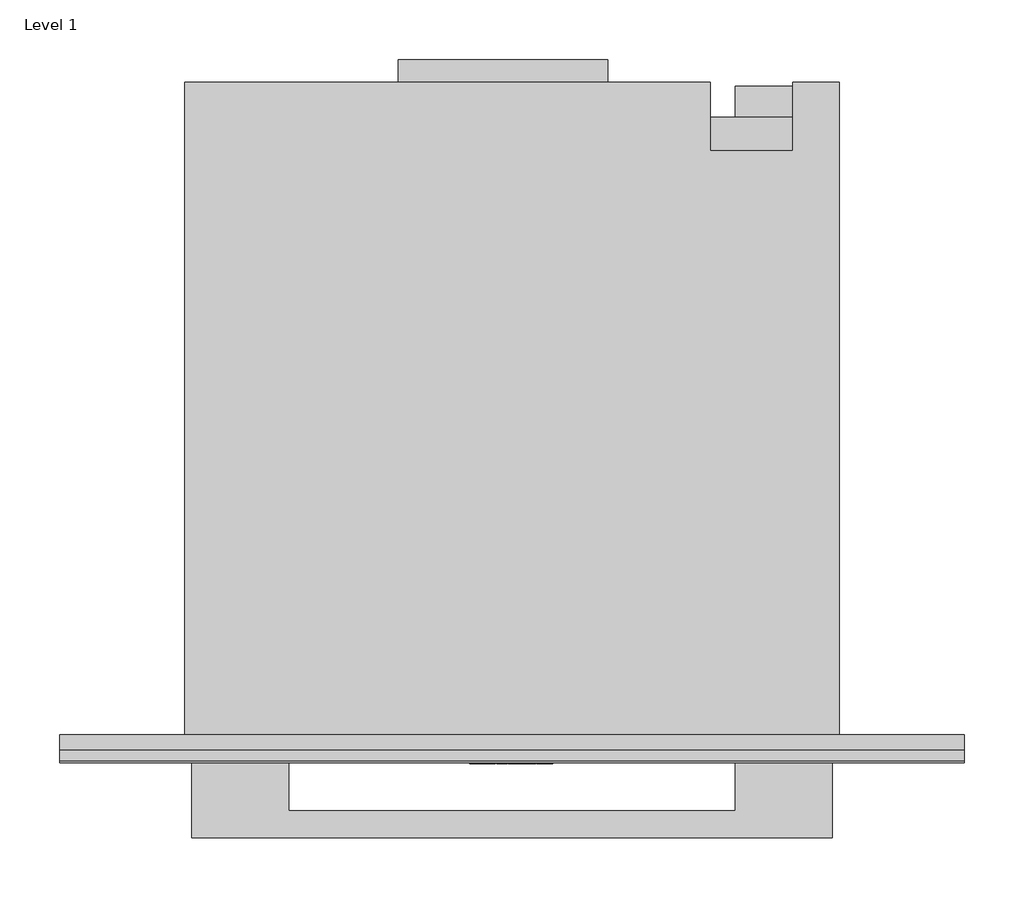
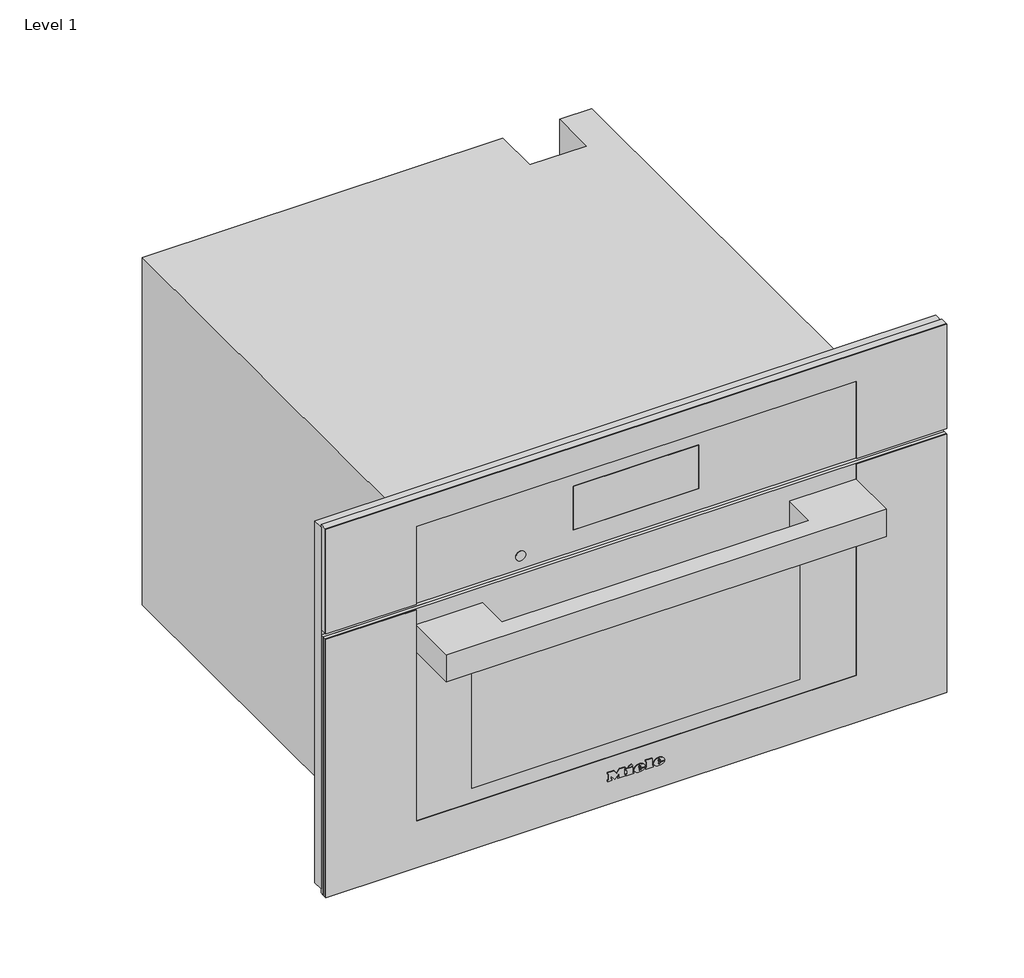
# One storey: 1 proxy.
"""IFC4 building model written with IfcOpenShell, lengths in millimetres."""

import ifcopenshell
import ifcopenshell.guid

model = None  # the IFC model being written
_history = None  # IfcOwnerHistory: only IFC2X3 demands one
_inside = {}  # id of a spatial element -> (the spatial element, [elements in it])
_under = {}  # id of a project, library or spatial element -> (it, [spatial elements below it])
_declared = {}  # id of a project -> (the project, [libraries it declares])
_typed = {}  # id of a type object -> (the type object, [elements of that type])
_made_of = {}  # id of a material, layer set ... -> (it, [elements and type objects made of it])


def new_model(schema):
    """Start an empty IFC model of exactly this schema.

    Asked for "IFC4X3", IfcOpenShell would pick the latest addendum, in which some entities
    have other attributes; the version numbers below select the first issue.
    IFC2X3 requires an IfcOwnerHistory on every rooted entity: one is made here for all.
    """
    global model, _history
    if schema == "IFC4X3":
        model = ifcopenshell.file(schema_version=(4, 3, 0, 0))
    else:
        model = ifcopenshell.file(schema=schema)
    _inside.clear()
    _under.clear()
    _declared.clear()
    _typed.clear()
    _made_of.clear()
    _history = None
    if model.schema == "IFC2X3":
        org = make("IfcOrganization", Name="unknown")
        user = make(
            "IfcPersonAndOrganization",
            ThePerson=make("IfcPerson", FamilyName="unknown"),
            TheOrganization=org,
        )
        app = make(
            "IfcApplication",
            ApplicationDeveloper=org,
            Version="unknown",
            ApplicationFullName="unknown",
            ApplicationIdentifier="unknown",
        )
        _history = make(
            "IfcOwnerHistory",
            OwningUser=user,
            OwningApplication=app,
            ChangeAction="ADDED",
            CreationDate=0,
        )
    return model


def make(cls, **values):
    """One entity of the class cls with the attributes given. An attribute that is None is left unset."""
    return model.create_entity(
        cls, **{name: value for name, value in values.items() if value is not None}
    )


def rooted(cls, **values):
    """An entity with a GlobalId (a new one), such as an element, a storey or a relation."""
    return make(cls, GlobalId=ifcopenshell.guid.new(), OwnerHistory=_history, **values)


def si_unit(unit_type, name, prefix=None):
    """IfcSIUnit, for example si_unit("LENGTHUNIT", "METRE", prefix="MILLI")."""
    return make("IfcSIUnit", UnitType=unit_type, Prefix=prefix, Name=name)


def assignment(units):
    """IfcUnitAssignment: the units of a project."""
    return None if units is None else make("IfcUnitAssignment", Units=units)


def point(xyz):
    """IfcCartesianPoint."""
    return None if xyz is None else make("IfcCartesianPoint", Coordinates=xyz)


def direction(xyz):
    """IfcDirection."""
    return None if xyz is None else make("IfcDirection", DirectionRatios=xyz)


def frame(location, z_axis=None, x_axis=None):
    """IfcAxis2Placement3D, a coordinate frame: its origin and axes. An axis left out is left unset."""
    return make(
        "IfcAxis2Placement3D",
        Location=point(location),
        Axis=direction(z_axis),
        RefDirection=direction(x_axis),
    )


def frame_2d(location, x_axis=None):
    """IfcAxis2Placement2D, a coordinate frame in the plane: its origin and x axis."""
    return make(
        "IfcAxis2Placement2D", Location=point(location), RefDirection=direction(x_axis)
    )


def origin():
    """The frame at (0, 0, 0) with its axes left unset."""
    return frame((0.0, 0.0, 0.0))


def place(relative_to, where):
    """IfcLocalPlacement: puts the frame where relative to a parent placement (None: the world)."""
    return make(
        "IfcLocalPlacement", PlacementRelTo=relative_to, RelativePlacement=where
    )


def context(
    kind, dimensions, precision=None, world=None, true_north=None, identifier=None
):
    """IfcGeometricRepresentationContext, for example the 3D "Model" context."""
    return make(
        "IfcGeometricRepresentationContext",
        ContextIdentifier=identifier,
        ContextType=kind,
        CoordinateSpaceDimension=dimensions,
        Precision=precision,
        WorldCoordinateSystem=world,
        TrueNorth=true_north,
    )


def project(units=None, contexts=None):
    """IfcProject with its units and contexts."""
    return rooted(
        "IfcProject",
        Name="project",
        RepresentationContexts=contexts,
        UnitsInContext=assignment(units),
    )


def spatial(cls, under=None, at=None, **own):
    """A site, building, storey or space (cls), placed at a placement, below another one or the project."""
    s = rooted(cls, ObjectPlacement=at, **own)
    if under is not None:
        _under.setdefault(under.id(), (under, []))[1].append(s)
    return s


def polyline(points):
    """IfcPolyline through the points."""
    return make("IfcPolyline", Points=[point(p) for p in points])


def circle_curve(where, radius):
    """IfcCircle in the frame where."""
    return make("IfcCircle", Position=where, Radius=radius)


def ellipse_curve(where, semi_axis1, semi_axis2):
    """IfcEllipse in the frame where."""
    return make(
        "IfcEllipse", Position=where, SemiAxis1=semi_axis1, SemiAxis2=semi_axis2
    )


def trimmed(basis, trim1, trim2, sense, master):
    """IfcTrimmedCurve: the piece of a basis curve between two trims."""
    return make(
        "IfcTrimmedCurve",
        BasisCurve=basis,
        Trim1=trim1,
        Trim2=trim2,
        SenseAgreement=sense,
        MasterRepresentation=master,
    )


def segment(curve, same_sense, transition):
    """IfcCompositeCurveSegment."""
    return make(
        "IfcCompositeCurveSegment",
        Transition=transition,
        SameSense=same_sense,
        ParentCurve=curve,
    )


def composite_curve(segments, self_intersect=None):
    """IfcCompositeCurve: segments joined end to end."""
    return make("IfcCompositeCurve", Segments=segments, SelfIntersect=self_intersect)


def outline(outer, holes=None, kind="AREA"):
    """IfcArbitraryClosedProfileDef: a profile drawn as a closed curve; with holes, ...WithVoids."""
    if holes is None:
        return make("IfcArbitraryClosedProfileDef", ProfileType=kind, OuterCurve=outer)
    return make(
        "IfcArbitraryProfileDefWithVoids",
        ProfileType=kind,
        OuterCurve=outer,
        InnerCurves=holes,
    )


def extrude(swept, where, along, depth):
    """IfcExtrudedAreaSolid: the profile swept, set in the frame where, extruded along a direction by depth."""
    return make(
        "IfcExtrudedAreaSolid",
        SweptArea=swept,
        Position=where,
        ExtrudedDirection=direction(along),
        Depth=depth,
    )


def faces_of(points, faces, orient=None, outer=None):
    """IfcFace entities. A face is a list of loops; a loop is a list of indices into points, from 0.

    orient and outer hold one flag for each loop. By default every Orientation is true, the
    first loop of a face is its IfcFaceOuterBound and the others are IfcFaceBound.
    """
    made = []
    for i, loops in enumerate(faces):
        bounds = []
        for j, loop in enumerate(loops):
            is_outer = j == 0 if outer is None else outer[i][j]
            bounds.append(
                make(
                    "IfcFaceOuterBound" if is_outer else "IfcFaceBound",
                    Bound=make("IfcPolyLoop", Polygon=[points[k] for k in loop]),
                    Orientation=True if orient is None else orient[i][j],
                )
            )
        made.append(make("IfcFace", Bounds=bounds))
    return made


def faceted_brep(points, faces, orient=None, outer=None, voids=None):
    """IfcFacetedBrep: a solid bounded by flat faces; with voids (closed shells), ...WithVoids."""
    shared = [point(p) for p in points]
    hull = make("IfcClosedShell", CfsFaces=faces_of(shared, faces, orient, outer))
    if voids is None:
        return make("IfcFacetedBrep", Outer=hull)
    return make(
        "IfcFacetedBrepWithVoids",
        Outer=hull,
        Voids=[
            make(cls, CfsFaces=faces_of(shared, fs, o, b)) for cls, fs, o, b in voids
        ],
    )


def shape(context_of_items, identifier, shape_type, items):
    """IfcShapeRepresentation: the items that make up one representation, for example the "Body"."""
    return make(
        "IfcShapeRepresentation",
        ContextOfItems=context_of_items,
        RepresentationIdentifier=identifier,
        RepresentationType=shape_type,
        Items=items,
    )


def source(mapping_origin, context_of_items, identifier, shape_type, items):
    """IfcRepresentationMap: a shape defined once, which mapped items show again and again."""
    return make(
        "IfcRepresentationMap",
        MappingOrigin=mapping_origin,
        MappedRepresentation=shape(context_of_items, identifier, shape_type, items),
    )


def transform(
    local_origin,
    x_axis=None,
    y_axis=None,
    z_axis=None,
    scale=None,
    scale2=None,
    scale3=None,
    uniform=True,
):
    """IfcCartesianTransformationOperator3D, or its non-uniform kind. x_axis, y_axis, z_axis: its Axis1, 2, 3."""
    if uniform:
        return make(
            "IfcCartesianTransformationOperator3D",
            Axis1=direction(x_axis),
            Axis2=direction(y_axis),
            LocalOrigin=point(local_origin),
            Scale=scale,
            Axis3=direction(z_axis),
        )
    return make(
        "IfcCartesianTransformationOperator3DnonUniform",
        Axis1=direction(x_axis),
        Axis2=direction(y_axis),
        LocalOrigin=point(local_origin),
        Scale=scale,
        Axis3=direction(z_axis),
        Scale2=scale2,
        Scale3=scale3,
    )


def mapped(mapping_source, mapping_target):
    """IfcMappedItem: shows the shape of a source again, moved by a transform."""
    return make(
        "IfcMappedItem", MappingSource=mapping_source, MappingTarget=mapping_target
    )


def made_of(thing, what):
    """Note that an element or type object is made of a material, layer set ...; save() writes the relation."""
    if what is not None:
        _made_of.setdefault(what.id(), (what, []))[1].append(thing)
    return thing


def element(
    cls,
    number,
    at=None,
    inside=None,
    cuts=None,
    type_object=None,
    material=None,
    context=None,
    identifier="Body",
    shape_type=None,
    held_by="IfcProductDefinitionShape",
    body=None,
    shapes=None,
    **own,
):
    """One element of the class cls, such as IfcWall. Its Tag is "e" and its number.

    at: its placement. inside: the storey or other place that contains it. cuts: it is an
    opening in that element (IfcRelVoidsElement). A single representation is given by context,
    identifier, shape_type and body (its items); several are given by shapes. held_by: the class
    of the entity that holds the representations. save() writes the other relations.
    """
    e = rooted(cls, Tag="e%d" % number, ObjectPlacement=at, **own)
    if body is not None:
        shapes = [shape(context, identifier, shape_type, body)]
    if shapes is not None:
        e.Representation = make(held_by, Representations=shapes)
    if inside is not None:
        _inside.setdefault(inside.id(), (inside, []))[1].append(e)
    if cuts is not None:
        rooted(
            "IfcRelVoidsElement", RelatingBuildingElement=cuts, RelatedOpeningElement=e
        )
    if type_object is not None:
        _typed.setdefault(type_object.id(), (type_object, []))[1].append(e)
    return made_of(e, material)


def aggregate(whole, parts):
    """IfcRelAggregates: a whole, such as a stair, and the parts it consists of."""
    return rooted("IfcRelAggregates", RelatingObject=whole, RelatedObjects=parts)


def save(model, path):
    """Write the relations noted so far, then the file.

    IfcRelAggregates (storeys below a building ...), IfcRelContainedInSpatialStructure (elements
    in a storey), IfcRelDefinesByType, IfcRelAssociatesMaterial and IfcRelDeclares: one each for
    every whole, place, type object, material and project.
    """
    for whole, parts in _under.values():
        aggregate(whole, parts)
    for where, things in _inside.values():
        rooted(
            "IfcRelContainedInSpatialStructure",
            RelatedElements=things,
            RelatingStructure=where,
        )
    for kind, things in _typed.values():
        rooted("IfcRelDefinesByType", RelatedObjects=things, RelatingType=kind)
    for what, things in _made_of.values():
        rooted("IfcRelAssociatesMaterial", RelatedObjects=things, RelatingMaterial=what)
    for by, libraries in _declared.values():
        rooted("IfcRelDeclares", RelatingContext=by, RelatedDefinitions=libraries)
    model.write(path)


def plane_surface(at):
    """IfcPlane: the flat surface through the origin of the frame at, square to its z axis."""
    return make("IfcPlane", Position=at)


def cylinder_surface(at, radius):
    """IfcCylindricalSurface: all points at the distance radius from the z axis of the frame at."""
    return make("IfcCylindricalSurface", Position=at, Radius=radius)


def revolved_surface(curve, axis_point, axis_direction):
    """IfcSurfaceOfRevolution: the curve turned about the line through axis_point along axis_direction."""
    return make(
        "IfcSurfaceOfRevolution",
        SweptCurve=make("IfcArbitraryOpenProfileDef", ProfileType="CURVE", Curve=curve),
        AxisPosition=make("IfcAxis1Placement", Location=point(axis_point), Axis=direction(axis_direction)),
    )


def extruded_surface(curve, direction_of_extrusion, depth):
    """IfcSurfaceOfLinearExtrusion: the curve pushed along a direction by depth."""
    return make(
        "IfcSurfaceOfLinearExtrusion",
        SweptCurve=make("IfcArbitraryOpenProfileDef", ProfileType="CURVE", Curve=curve),
        ExtrudedDirection=direction(direction_of_extrusion),
        Depth=depth,
    )


def advanced_brep(points, edges, surfaces, faces):
    """IfcAdvancedBrep: a solid bounded by faces that lie on surfaces and meet in shared edges.

    An edge is (start, end): straight between two places in points (the first is 0);
    or (start, end, curve); or (start, end, curve, False) where it runs against its curve.
    A face is (place in surfaces, loops), or (place, loops, False) where it looks against
    its surface's normal. A loop lists edges by number (the first is 1), with a minus sign
    where the edge is run from its end to its start. The first loop is the outer one.
    """
    corners = [point(p) for p in points]
    vertices = [make("IfcVertexPoint", VertexGeometry=c) for c in corners]
    made = []
    for start, end, *more in edges:
        made.append(
            make(
                "IfcEdgeCurve",
                EdgeStart=vertices[start],
                EdgeEnd=vertices[end],
                EdgeGeometry=more[0] if more else make("IfcPolyline", Points=[corners[start], corners[end]]),
                SameSense=more[1] if len(more) > 1 else True,
            )
        )
    hull = []
    for where, loops, *sense in faces:
        bounds = []
        for j, loop in enumerate(loops):
            ring = [make("IfcOrientedEdge", EdgeElement=made[abs(k) - 1], Orientation=k > 0) for k in loop]
            bounds.append(
                make(
                    "IfcFaceOuterBound" if j == 0 else "IfcFaceBound",
                    Bound=make("IfcEdgeLoop", EdgeList=ring),
                    Orientation=True,
                )
            )
        hull.append(make("IfcAdvancedFace", Bounds=bounds, FaceSurface=surfaces[where], SameSense=sense[0] if sense else True))
    return make("IfcAdvancedBrep", Outer=make("IfcClosedShell", CfsFaces=hull))


def specialty_equipment_94763660(model_context):
    return source(origin(), model_context, "Body", "SolidModel", [
        faceted_brep([(378.5, -13.0, 476.0), (-378.5, -13.0, 476.0), (-378.5, -13.0, 9.0), (-272.5, -13.0, 9.0), (-272.5, -13.0, 344.0), (272.5, -13.0, 344.0), (272.5, -13.0, 9.0), (378.5, -13.0, 9.0), (378.5, 0.0, 476.0), (378.5, 0.0, 9.0), (-378.5, 0.0, 9.0), (-378.5, 0.0, 476.0), (231.0, 0.0, 58.0), (231.0, 0.0, 286.0), (-231.0, 0.0, 286.0), (-231.0, 0.0, 58.0), (272.5, -5.0, 9.0), (-272.5, -5.0, 9.0), (-272.5, -5.0, 344.0), (272.5, -5.0, 344.0), (231.0, -5.0, 286.0), (231.0, -5.0, 58.0), (-231.0, -5.0, 58.0), (-231.0, -5.0, 286.0)], [[[0, 1, 2, 3, 4, 5, 6, 7]], [[8, 9, 10, 11], [12, 13, 14, 15]], [[1, 0, 8, 11]], [[2, 1, 11, 10]], [[10, 9, 7, 6, 16, 17, 3, 2]], [[0, 7, 9, 8]], [[18, 19, 5, 4]], [[18, 4, 3, 17]], [[5, 19, 16, 6]], [[19, 18, 17, 16], [20, 21, 22, 23]], [[20, 13, 12, 21]], [[21, 12, 15, 22]], [[22, 15, 14, 23]], [[13, 20, 23, 14]]]),
        extrude(outline(polyline([(-95.0, 565.0), (80.0, 565.0), (80.0, 546.0), (-95.0, 546.0), (-95.0, 565.0)])), frame((0.0, 0.0, 260.0), z_axis=(0.0, 0.0, 1.0), x_axis=(1.0, 0.0, 0.0)), (0.0, 0.0, 1.0), 1.0),
        extrude(outline(polyline([(224.8383288, 537.0), (231.1236409, 537.0), (231.1236409, 526.9492425), (229.8571792, 526.9492425), (229.8571792, 535.7409796), (224.8383288, 535.7409796), (224.8383288, 537.0)])), frame((0.0, 0.0, 132.0), z_axis=(0.0, 0.0, 1.0), x_axis=(1.0, 0.0, 0.0)), (0.0, 0.0, 1.0), 1.0),
        extrude(outline(polyline([(233.0, 537.0), (240.3797826, 537.0), (240.3797826, 526.9503529), (233.15422, 526.9503529), (233.15422, 528.220938), (239.1355215, 528.220938), (239.1355215, 531.1975645), (233.4863097, 531.1975645), (233.4863097, 532.449242), (239.1355215, 532.449242), (239.1355215, 535.7448633), (233.0, 535.7448633), (233.0, 537.0)])), frame((0.0, 0.0, 132.0), z_axis=(0.0, 0.0, 1.0), x_axis=(1.0, 0.0, 0.0)), (0.0, 0.0, 1.0), 1.0),
        extrude(outline(composite_curve([segment(trimmed(circle_curve(frame_2d((233.0, 532.0)), 7.5), [point((225.5, 532.0))], [point((240.5, 532.0))], False, "CARTESIAN"), True, "CONTINUOUS"), segment(trimmed(circle_curve(frame_2d((233.0, 532.0)), 7.5), [point((240.5, 532.0))], [point((225.5, 532.0))], False, "CARTESIAN"), True, "CONTINUOUS")], self_intersect=False)), frame((0.0, 0.0, 133.0), z_axis=(0.0, 0.0, 1.0), x_axis=(1.0, 0.0, 0.0)), (0.0, 0.0, 1.0), 30.0),
        extrude(outline(polyline([(266.0, 517.0), (187.0, 517.0), (187.0, 543.0), (266.0, 543.0), (266.0, 517.0)])), frame((0.0, 0.0, 163.0), z_axis=(0.0, 0.0, 1.0), x_axis=(1.0, 0.0, 0.0)), (0.0, 0.0, 1.0), 111.0),
        faceted_brep([(-274.0, 546.0, 0.0), (-274.0, 546.0, 448.0), (166.0, 546.0, 448.0), (166.0, 546.0, 0.0), (235.0, 546.0, 448.0), (274.0, 546.0, 448.0), (274.0, 546.0, 338.0), (235.0, 546.0, 338.0), (274.0, 0.0, 448.0), (-274.0, 0.0, 448.0), (-274.0, 0.0, 0.0), (274.0, 0.0, 0.0), (231.0, 0.0, 286.0), (231.0, 0.0, 58.0), (-231.0, 0.0, 58.0), (-231.0, 0.0, 286.0), (235.0, 489.0, 448.0), (166.0, 489.0, 448.0), (166.0, 517.0, 0.0), (274.0, 517.0, 0.0), (274.0, 517.0, 338.0), (231.0, 411.0, 286.0), (-231.0, 411.0, 286.0), (-231.0, 411.0, 58.0), (231.0, 411.0, 58.0), (235.0, 489.0, 337.0), (166.0, 489.0, 337.0), (166.0, 517.0, 337.0), (235.0, 517.0, 337.0), (235.0, 517.0, 338.0)], [[[0, 1, 2, 3]], [[4, 5, 6, 7]], [[8, 9, 10, 11], [12, 13, 14, 15]], [[9, 8, 5, 4, 16, 17, 2, 1]], [[1, 0, 10, 9]], [[11, 10, 0, 3, 18, 19]], [[8, 11, 19, 20, 6, 5]], [[21, 22, 23, 24]], [[21, 24, 13, 12]], [[24, 23, 14, 13]], [[23, 22, 15, 14]], [[22, 21, 12, 15]], [[16, 25, 26, 17]], [[17, 26, 27, 18, 3, 2]], [[26, 25, 28, 27]], [[25, 16, 4, 7, 29, 28]], [[29, 20, 19, 18, 27, 28]], [[20, 29, 7, 6]]]),
        advanced_brep(
        [(26.2998, -24.3, 36.7018), (26.2998, -24.3, 37.8532), (33.9264, -24.3, 37.8532), (20.6568, -24.3, 37.8532), (23.7918, -24.3, 34.0), (33.7326, -24.3, 36.7018), (30.2898, -24.3, 36.7018), (27.5766, -24.3, 35.425), (26.2998, -24.3, 39.3124), (26.2998, -24.3, 40.555), (28.2492, -24.3, 40.555), (28.2492, -24.3, 39.3124), (26.2998, -23.3, 36.7018), (27.5766, -23.3, 35.425), (30.2898, -23.3, 36.7018), (33.7326, -23.3, 36.7018), (23.7918, -23.3, 34.0), (20.6568, -23.3, 37.8532), (33.9264, -23.3, 37.8532), (26.2998, -23.3, 37.8532), (26.2998, -23.3, 39.3124), (28.2492, -23.3, 39.3124), (28.2492, -23.3, 40.555), (26.2998, -23.3, 40.555)],
        [
            (0, 1),
            (1, 2),
            (2, 3, ellipse_curve(frame((27.2916, -24.3, 37.8532), z_axis=(0.0, -1.0, 0.0), x_axis=(-1.0, 0.0, 0.0)), 6.6348, 5.4834)),
            (3, 4, circle_curve(frame((25.0686622, -24.3, 38.2408), z_axis=(0.0, -1.0, 0.0), x_axis=(0.0, 0.0, -1.0)), 4.4288556)),
            (4, 5, circle_curve(frame((27.1587808, -24.3, 41.2504), z_axis=(0.0, -1.0, 0.0), x_axis=(0.0, 0.0, -1.0)), 7.9940516)),
            (5, 6),
            (6, 7, circle_curve(frame((28.1338588, -24.3, 37.762), z_axis=(0.0, 1.0, 0.0), x_axis=(0.0, 0.0, -1.0)), 2.4025208)),
            (7, 0, circle_curve(frame((27.5766, -24.3, 36.7018), z_axis=(0.0, 1.0, 0.0), x_axis=(0.0, 0.0, -1.0)), 1.2768)),
            (8, 9),
            (9, 10, circle_curve(frame((27.2745, -24.3, 40.555), z_axis=(0.0, 1.0, 0.0), x_axis=(0.0, 0.0, -1.0)), 0.9747)),
            (10, 11),
            (11, 8),
            (12, 13, circle_curve(frame((27.5766, -23.3, 36.7018), z_axis=(0.0, -1.0, 0.0), x_axis=(0.0, 0.0, -1.0)), 1.2768)),
            (13, 14, circle_curve(frame((28.1338588, -23.3, 37.762), z_axis=(0.0, -1.0, 0.0), x_axis=(0.0, 0.0, -1.0)), 2.4025208)),
            (14, 15),
            (15, 16, circle_curve(frame((27.1587808, -23.3, 41.2504), z_axis=(0.0, 1.0, 0.0), x_axis=(0.0, 0.0, -1.0)), 7.9940516)),
            (16, 17, circle_curve(frame((25.0686622, -23.3, 38.2408), z_axis=(0.0, 1.0, 0.0), x_axis=(0.0, 0.0, -1.0)), 4.4288556)),
            (17, 18, ellipse_curve(frame((27.2916, -23.3, 37.8532), z_axis=(0.0, 1.0, 0.0), x_axis=(-1.0, 0.0, 0.0)), 6.6348, 5.4834)),
            (18, 19),
            (19, 12),
            (20, 21),
            (21, 22),
            (22, 23, circle_curve(frame((27.2745, -23.3, 40.555), z_axis=(0.0, -1.0, 0.0), x_axis=(0.0, 0.0, -1.0)), 0.9747)),
            (23, 20),
            (0, 12),
            (19, 1),
            (18, 2),
            (5, 15),
            (14, 6),
            (17, 3),
            (13, 7),
            (16, 4),
            (8, 20),
            (23, 9),
            (22, 10),
            (21, 11),
        ],
        [
            plane_surface(frame((26.2998, -24.3, 37.8532), z_axis=(0.0, -1.0, 0.0), x_axis=(0.0, 0.0, 1.0))),
            plane_surface(frame((26.2998, -23.3, 37.8532), z_axis=(0.0, 1.0, 0.0), x_axis=(0.0, 0.0, -1.0))),
            plane_surface(frame((26.2998, -24.3, 36.7018), z_axis=(1.0, 0.0, 0.0), x_axis=(0.0, 1.0, 0.0))),
            plane_surface(frame((26.2998, -24.3, 37.8532), z_axis=(0.0, 0.0, -1.0), x_axis=(0.0, 1.0, 0.0))),
            plane_surface(frame((33.7326, -24.3, 36.7018), z_axis=(0.0, 0.0, 1.0), x_axis=(0.0, 1.0, 0.0))),
            extruded_surface(trimmed(ellipse_curve(frame((27.2916, -22.3, 37.8532), z_axis=(0.0, -1.0, 0.0), x_axis=(-1.0, 0.0, 0.0)), 6.6348, 5.4834), [point((33.9264, -22.3, 37.8532))], [point((20.6568, -22.3, 37.8532))], True, "CARTESIAN"), (0.0, -1.0, 0.0), 1.0),
            revolved_surface(polyline([(28.1338588, -23.3, 35.3594792), (28.1338588, -24.3, 35.3594792)]), (28.1338588, -23.3, 37.762), (0.0, 1.0, 0.0)),
            revolved_surface(polyline([(27.5766, -23.3, 35.425), (27.5766, -24.3, 35.425)]), (27.5766, -23.3, 36.7018), (0.0, 1.0, 0.0)),
            cylinder_surface(frame((25.0686622, -23.3, 38.2408), z_axis=(0.0, -1.0, 0.0), x_axis=(0.0, 0.0, -1.0)), 4.4288556),
            cylinder_surface(frame((27.1587808, -23.3, 41.2504), z_axis=(0.0, -1.0, 0.0), x_axis=(0.0, 0.0, -1.0)), 7.9940516),
            plane_surface(frame((26.2998, -24.3, 39.3124), z_axis=(1.0, 0.0, 0.0), x_axis=(0.0, 1.0, 0.0))),
            revolved_surface(polyline([(27.2745, -23.3, 39.5803), (27.2745, -24.3, 39.5803)]), (27.2745, -23.3, 40.555), (0.0, 1.0, 0.0)),
            plane_surface(frame((28.2492, -24.3, 40.555), z_axis=(-1.0, 0.0, 0.0), x_axis=(0.0, 1.0, 0.0))),
            plane_surface(frame((28.2492, -24.3, 39.3124), z_axis=(0.0, 0.0, 1.0), x_axis=(0.0, 1.0, 0.0))),
        ],
        [
            (0, [[1, 2, 3, 4, 5, 6, 7, 8], [9, 10, 11, 12]]),
            (1, [[13, 14, 15, 16, 17, 18, 19, 20], [21, 22, 23, 24]]),
            (2, [[-1, 25, -20, 26]]),
            (3, [[-2, -26, -19, 27]]),
            (4, [[-6, 28, -15, 29]]),
            (5, [[-3, -27, -18, 30]]),
            (6, [[-7, -29, -14, 31]]),
            (7, [[-8, -31, -13, -25]]),
            (8, [[-4, -30, -17, 32]]),
            (9, [[-5, -32, -16, -28]]),
            (10, [[-9, 33, -24, 34]]),
            (11, [[-10, -34, -23, 35]]),
            (12, [[-11, -35, -22, 36]]),
            (13, [[-12, -36, -21, -33]]),
        ],
    ),
        advanced_brep(
        [(2.508, -24.3, 36.7018), (2.508, -24.3, 37.8532), (10.1346, -24.3, 37.8532), (-3.135, -24.3, 37.8532), (0.0, -24.3, 34.0), (9.9408, -24.3, 36.7018), (6.498, -24.3, 36.7018), (3.7848, -24.3, 35.425), (2.508, -24.3, 39.3124), (2.508, -24.3, 40.555), (4.4574, -24.3, 40.555), (4.4574, -24.3, 39.3124), (2.508, -23.3, 36.7018), (3.7848, -23.3, 35.425), (6.498, -23.3, 36.7018), (9.9408, -23.3, 36.7018), (0.0, -23.3, 34.0), (-3.135, -23.3, 37.8532), (10.1346, -23.3, 37.8532), (2.508, -23.3, 37.8532), (2.508, -23.3, 39.3124), (4.4574, -23.3, 39.3124), (4.4574, -23.3, 40.555), (2.508, -23.3, 40.555)],
        [
            (0, 1),
            (1, 2),
            (2, 3, ellipse_curve(frame((3.4998, -24.3, 37.8532), z_axis=(0.0, -1.0, 0.0), x_axis=(-1.0, 0.0, 0.0)), 6.6348, 5.4834)),
            (3, 4, circle_curve(frame((1.2768622, -24.3, 38.2408), z_axis=(0.0, -1.0, 0.0), x_axis=(0.0, 0.0, -1.0)), 4.4288556)),
            (4, 5, circle_curve(frame((3.3669808, -24.3, 41.2504), z_axis=(0.0, -1.0, 0.0), x_axis=(0.0, 0.0, -1.0)), 7.9940516)),
            (5, 6),
            (6, 7, circle_curve(frame((4.3420588, -24.3, 37.762), z_axis=(0.0, 1.0, 0.0), x_axis=(0.0, 0.0, -1.0)), 2.4025208)),
            (7, 0, circle_curve(frame((3.7848, -24.3, 36.7018), z_axis=(0.0, 1.0, 0.0), x_axis=(0.0, 0.0, -1.0)), 1.2768)),
            (8, 9),
            (9, 10, circle_curve(frame((3.4827, -24.3, 40.555), z_axis=(0.0, 1.0, 0.0), x_axis=(0.0, 0.0, -1.0)), 0.9747)),
            (10, 11),
            (11, 8),
            (12, 13, circle_curve(frame((3.7848, -23.3, 36.7018), z_axis=(0.0, -1.0, 0.0), x_axis=(0.0, 0.0, -1.0)), 1.2768)),
            (13, 14, circle_curve(frame((4.3420588, -23.3, 37.762), z_axis=(0.0, -1.0, 0.0), x_axis=(0.0, 0.0, -1.0)), 2.4025208)),
            (14, 15),
            (15, 16, circle_curve(frame((3.3669808, -23.3, 41.2504), z_axis=(0.0, 1.0, 0.0), x_axis=(0.0, 0.0, -1.0)), 7.9940516)),
            (16, 17, circle_curve(frame((1.2768622, -23.3, 38.2408), z_axis=(0.0, 1.0, 0.0), x_axis=(0.0, 0.0, -1.0)), 4.4288556)),
            (17, 18, ellipse_curve(frame((3.4998, -23.3, 37.8532), z_axis=(0.0, 1.0, 0.0), x_axis=(-1.0, 0.0, 0.0)), 6.6348, 5.4834)),
            (18, 19),
            (19, 12),
            (20, 21),
            (21, 22),
            (22, 23, circle_curve(frame((3.4827, -23.3, 40.555), z_axis=(0.0, -1.0, 0.0), x_axis=(0.0, 0.0, -1.0)), 0.9747)),
            (23, 20),
            (0, 12),
            (19, 1),
            (18, 2),
            (5, 15),
            (14, 6),
            (17, 3),
            (13, 7),
            (16, 4),
            (8, 20),
            (23, 9),
            (22, 10),
            (21, 11),
        ],
        [
            plane_surface(frame((2.508, -24.3, 37.8532), z_axis=(0.0, -1.0, 0.0), x_axis=(0.0, 0.0, 1.0))),
            plane_surface(frame((2.508, -23.3, 37.8532), z_axis=(0.0, 1.0, 0.0), x_axis=(0.0, 0.0, -1.0))),
            plane_surface(frame((2.508, -24.3, 36.7018), z_axis=(1.0, 0.0, 0.0), x_axis=(0.0, 1.0, 0.0))),
            plane_surface(frame((2.508, -24.3, 37.8532), z_axis=(0.0, 0.0, -1.0), x_axis=(0.0, 1.0, 0.0))),
            plane_surface(frame((9.9408, -24.3, 36.7018), z_axis=(0.0, 0.0, 1.0), x_axis=(0.0, 1.0, 0.0))),
            extruded_surface(trimmed(ellipse_curve(frame((3.4998, -22.3, 37.8532), z_axis=(0.0, -1.0, 0.0), x_axis=(-1.0, 0.0, 0.0)), 6.6348, 5.4834), [point((10.1346, -22.3, 37.8532))], [point((-3.135, -22.3, 37.8532))], True, "CARTESIAN"), (0.0, -1.0, 0.0), 1.0),
            revolved_surface(polyline([(4.3420588, -23.3, 35.3594792), (4.3420588, -24.3, 35.3594792)]), (4.3420588, -23.3, 37.762), (0.0, 1.0, 0.0)),
            revolved_surface(polyline([(3.7848, -23.3, 35.425), (3.7848, -24.3, 35.425)]), (3.7848, -23.3, 36.7018), (0.0, 1.0, 0.0)),
            cylinder_surface(frame((1.2768622, -23.3, 38.2408), z_axis=(0.0, -1.0, 0.0), x_axis=(0.0, 0.0, -1.0)), 4.4288556),
            cylinder_surface(frame((3.3669808, -23.3, 41.2504), z_axis=(0.0, -1.0, 0.0), x_axis=(0.0, 0.0, -1.0)), 7.9940516),
            plane_surface(frame((2.508, -24.3, 39.3124), z_axis=(1.0, 0.0, 0.0), x_axis=(0.0, 1.0, 0.0))),
            revolved_surface(polyline([(3.4827, -23.3, 39.5803), (3.4827, -24.3, 39.5803)]), (3.4827, -23.3, 40.555), (0.0, 1.0, 0.0)),
            plane_surface(frame((4.4574, -24.3, 40.555), z_axis=(-1.0, 0.0, 0.0), x_axis=(0.0, 1.0, 0.0))),
            plane_surface(frame((4.4574, -24.3, 39.3124), z_axis=(0.0, 0.0, 1.0), x_axis=(0.0, 1.0, 0.0))),
        ],
        [
            (0, [[1, 2, 3, 4, 5, 6, 7, 8], [9, 10, 11, 12]]),
            (1, [[13, 14, 15, 16, 17, 18, 19, 20], [21, 22, 23, 24]]),
            (2, [[-1, 25, -20, 26]]),
            (3, [[-2, -26, -19, 27]]),
            (4, [[-6, 28, -15, 29]]),
            (5, [[-3, -27, -18, 30]]),
            (6, [[-7, -29, -14, 31]]),
            (7, [[-8, -31, -13, -25]]),
            (8, [[-4, -30, -17, 32]]),
            (9, [[-5, -32, -16, -28]]),
            (10, [[-9, 33, -24, 34]]),
            (11, [[-10, -34, -23, 35]]),
            (12, [[-11, -35, -22, 36]]),
            (13, [[-12, -36, -21, -33]]),
        ],
    ),
        extrude(outline(polyline([(44.7274, -9.9522), (42.8806, -9.0858), (44.6818, -5.2212), (46.5286, -6.0762), (44.7274, -9.9522)])), frame((0.0, -24.3, 0.0), z_axis=(0.0, 1.0, 0.0), x_axis=(0.0, 0.0, 1.0)), (0.0, 0.0, 1.0), 1.0),
        extrude(outline(polyline([(42.6298, -12.768), (40.5892, -12.768), (40.5892, -11.4114), (35.9152, -11.4114), (35.9152, -12.768), (34.0, -12.768), (34.0, -3.7734), (35.9152, -3.7734), (35.9152, -5.0958), (42.6298, -5.0958), (42.6298, -12.768)])), frame((0.0, -24.3, 0.0), z_axis=(0.0, 1.0, 0.0), x_axis=(0.0, 0.0, 1.0)), (0.0, 0.0, 1.0), 1.0),
        extrude(outline(polyline([(43.5418, 10.773), (43.5418, 12.141), (35.9152, 12.141), (35.9152, 10.773), (34.0, 10.773), (34.0, 20.0184), (35.9152, 20.0184), (35.9152, 18.6162), (45.4, 18.6162), (45.4, 10.773), (43.5418, 10.773)])), frame((0.0, -24.3, 0.0), z_axis=(0.0, 1.0, 0.0), x_axis=(0.0, 0.0, 1.0)), (0.0, 0.0, 1.0), 1.0),
        extrude(outline(polyline([(43.5418, -35.4882), (43.5418, -34.1088), (35.9152, -34.1088), (35.9152, -35.4882), (34.0, -35.4882), (34.0, -30.4722), (35.9152, -30.4722), (35.9152, -31.8402), (40.7429247, -31.8402), (34.0, -26.7444), (40.9402223, -21.6258), (35.9152, -21.6258), (35.9152, -23.028), (34.0, -23.028), (34.0, -13.9308), (35.9152, -13.9308), (35.9152, -15.3786), (43.5418, -15.3786), (43.5418, -13.9308), (45.4, -13.9308), (45.4, -20.8734), (41.125, -24.2022), (45.4, -27.5424), (45.4, -35.4882), (43.5418, -35.4882)])), frame((0.0, -24.3, 0.0), z_axis=(0.0, 1.0, 0.0), x_axis=(0.0, 0.0, 1.0)), (0.0, 0.0, 1.0), 1.0),
        extrude(outline(composite_curve([segment(trimmed(circle_curve(frame_2d((361.0, -140.5745637)), 6.0), [point((361.0, -146.5745637))], [point((361.0, -134.5745637))], False, "CARTESIAN"), True, "CONTINUOUS"), segment(trimmed(circle_curve(frame_2d((361.0, -140.5745637)), 6.0), [point((361.0, -134.5745637))], [point((361.0, -146.5745637))], False, "CARTESIAN"), True, "CONTINUOUS")], self_intersect=False)), frame((0.0, -22.5, 0.0), z_axis=(0.0, 1.0, 0.0), x_axis=(0.0, 0.0, 1.0)), (0.0, 0.0, 1.0), 1.0),
        extrude(outline(polyline([(344.0, -268.5), (444.0, -268.5), (444.0, 268.5), (344.0, 268.5), (344.0, 378.5), (479.0, 378.5), (479.0, -378.5), (344.0, -378.5), (344.0, -268.5)])), frame((0.0, -23.3, 0.0), z_axis=(0.0, 1.0, 0.0), x_axis=(0.0, 0.0, 1.0)), (0.0, 0.0, 1.0), 1.3),
        extrude(outline(polyline([(-76.5, -21.0), (76.5, -21.0), (76.5, -22.0), (-76.5, -22.0), (-76.5, -21.0)])), frame((0.0, 0.0, 372.0), z_axis=(0.0, 0.0, 1.0), x_axis=(1.0, 0.0, 0.0)), (0.0, 0.0, 1.0), 56.0),
        faceted_brep([(378.5, -22.0, 479.0), (-378.5, -22.0, 479.0), (-378.5, -22.0, 344.0), (378.5, -22.0, 344.0), (76.5, -22.0, 428.0), (76.5, -22.0, 372.0), (-76.5, -22.0, 372.0), (-76.5, -22.0, 428.0), (378.5, -13.0, 479.0), (378.5, -13.0, 344.0), (-378.5, -13.0, 344.0), (-378.5, -13.0, 479.0), (76.5, -21.0, 428.0), (-76.5, -21.0, 428.0), (-76.5, -21.0, 372.0), (76.5, -21.0, 372.0)], [[[0, 1, 2, 3], [4, 5, 6, 7]], [[8, 9, 10, 11]], [[1, 0, 8, 11]], [[2, 1, 11, 10]], [[3, 2, 10, 9]], [[0, 3, 9, 8]], [[12, 13, 14, 15]], [[12, 15, 5, 4]], [[15, 14, 6, 5]], [[14, 13, 7, 6]], [[13, 12, 4, 7]]]),
        extrude(outline(polyline([(200.0, -22.0), (-200.0, -22.0), (-200.0, -18.0), (200.0, -18.0), (200.0, -22.0)])), frame((0.0, 0.0, 82.0), z_axis=(0.0, 0.0, 1.0), x_axis=(1.0, 0.0, 0.0)), (0.0, 0.0, 1.0), 170.0),
        extrude(outline(polyline([(337.0, 378.5), (337.0, -378.5), (4.0, -378.5), (4.0, 378.5), (337.0, 378.5)]), holes=[polyline([(252.0, -200.0), (252.0, 200.0), (82.0, 200.0), (82.0, -200.0), (252.0, -200.0)])]), frame((0.0, -22.0, 0.0), z_axis=(0.0, 1.0, 0.0), x_axis=(0.0, 0.0, 1.0)), (0.0, 0.0, 1.0), 4.0),
        extrude(outline(polyline([(-187.0, -22.0), (-187.0, -63.3), (187.0, -63.3), (187.0, -22.0), (268.0, -22.0), (268.0, -86.3), (-268.0, -86.3), (-268.0, -22.0), (-187.0, -22.0)])), frame((0.0, 0.0, 282.0), z_axis=(0.0, 0.0, 1.0), x_axis=(1.0, 0.0, 0.0)), (0.0, 0.0, 1.0), 35.0),
        extrude(outline(polyline([(337.0, -378.5), (4.0, -378.5), (4.0, 378.5), (337.0, 378.5), (337.0, 268.5), (64.0, 268.5), (64.0, -268.5), (337.0, -268.5), (337.0, -378.5)])), frame((0.0, -23.3, 0.0), z_axis=(0.0, 1.0, 0.0), x_axis=(0.0, 0.0, 1.0)), (0.0, 0.0, 1.0), 1.3),
        extrude(outline(polyline([(378.5, -18.0), (-378.5, -18.0), (-378.5, -13.0), (378.5, -13.0), (378.5, -18.0)])), frame((0.0, 0.0, 4.0), z_axis=(0.0, 0.0, 1.0), x_axis=(1.0, 0.0, 0.0)), (0.0, 0.0, 1.0), 333.0),
    ])


model = new_model("IFC4")

# Units and contexts
model_context = context("Model", 3, world=origin())
ifc_project = project(units=[si_unit("LENGTHUNIT", "METRE", prefix="MILLI")], contexts=[model_context])

# Site, building, storey
site = spatial("IfcSite", under=ifc_project)
building = spatial("IfcBuilding", under=site)
storey = spatial("IfcBuildingStorey", under=building, Name="Level 1", Elevation=0.0)

# Proxy
placement = place(None, origin())
specialty_equipment_shape = specialty_equipment_94763660(model_context)
element("IfcBuildingElementProxy", 1, Name="11875780_USA_DGC7770_EDST-CLST : 23777042_USA_11875780_DGC7770_EDST-CLST", ObjectType="11875780_USA_DGC7770_EDST-CLST : 23777042_USA_11875780_DGC7770_EDST-CLST", at=placement, inside=storey, context=model_context, shape_type="MappedRepresentation", body=[
    mapped(specialty_equipment_shape, transform((0.0, 0.0, 0.0), x_axis=(1.0, 0.0, 0.0), y_axis=(0.0, 1.0, 0.0), z_axis=(0.0, 0.0, 1.0))),
])

save(model, "model.ifc")
